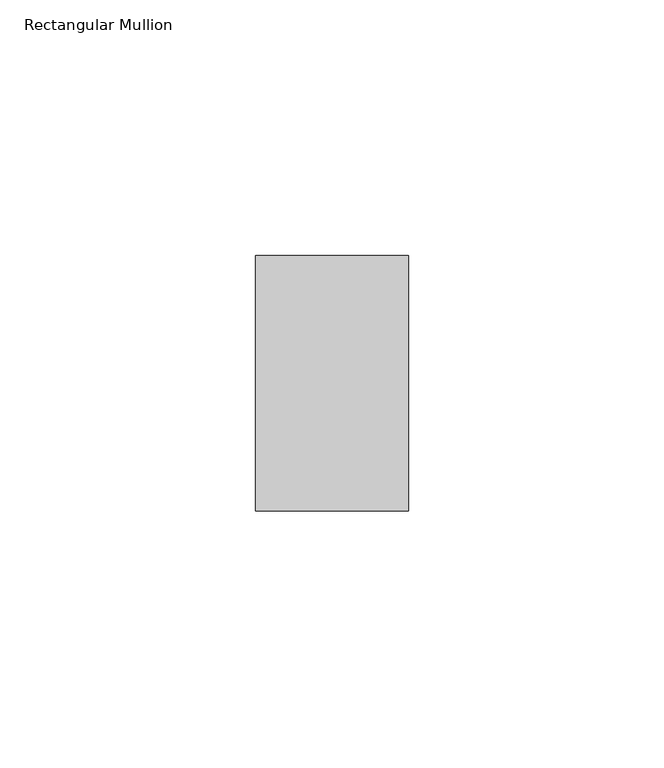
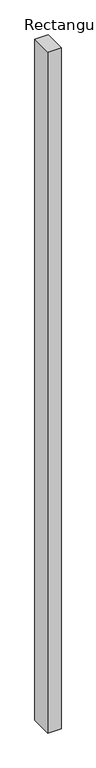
"""IFC4 building model written with IfcOpenShell, lengths in millimetres: member geometry, Rectangular Mullion : ARQ_REJA_MULL_50x30mm."""

from ifc_helpers import new_model, si_unit, frame, origin, place, context, project, spatial, polyline, outline, extrude, source, transform, mapped, element, save


def rectangular_mullion_6e12e53f(model_context):
    return source(origin(), model_context, "Body", "SweptSolid", [
        extrude(outline(polyline([(0.0, 25.0), (0.0, -25.0), (-30.0, -25.0), (-30.0, 25.0), (0.0, 25.0)])), frame((0.0, 0.0, -1623.3333335), z_axis=(0.0, 0.0, 1.0), x_axis=(1.0, 0.0, 0.0)), (0.0, 0.0, 1.0), 1623.3333335),
    ])


if __name__ == "__main__":
    model = new_model("IFC4")
    model_context = context("Model", 3, world=origin())
    ifc_project = project(units=[si_unit("LENGTHUNIT", "METRE", prefix="MILLI")], contexts=[model_context])
    site = spatial("IfcSite", under=ifc_project)
    building = spatial("IfcBuilding", under=site)
    placement = place(None, origin())
    rectangular_mullion_shape = rectangular_mullion_6e12e53f(model_context)
    element("IfcMember", 1, ObjectType="Rectangular Mullion : ARQ_REJA_MULL_50x30mm", at=placement, inside=building, context=model_context, shape_type="MappedRepresentation", body=[
        mapped(rectangular_mullion_shape, transform((0.0, 0.0, 0.0), x_axis=(1.0, 0.0, 0.0), y_axis=(0.0, 1.0, 0.0), z_axis=(0.0, 0.0, 1.0))),
    ])
    save(model, "model.ifc")
